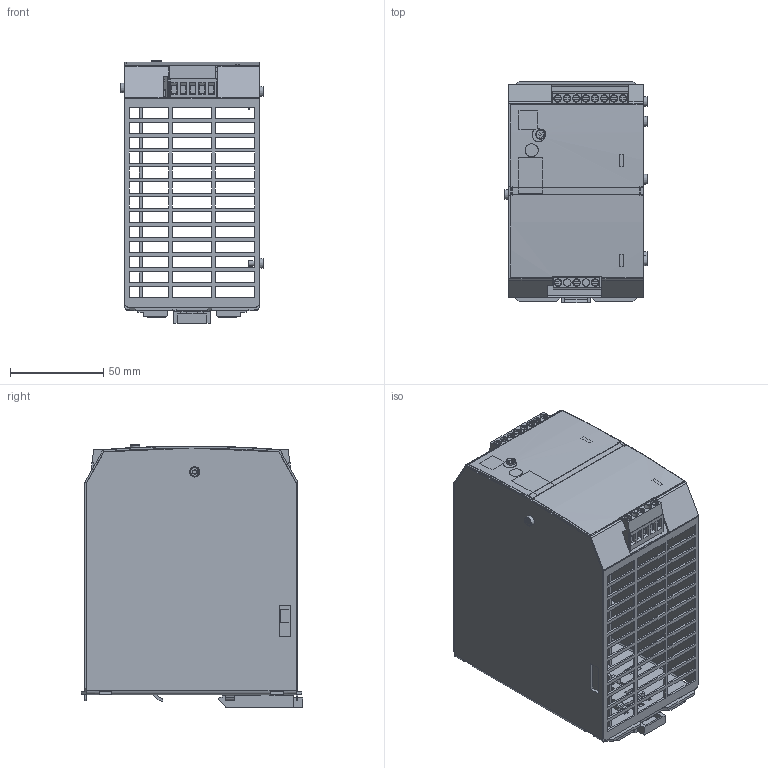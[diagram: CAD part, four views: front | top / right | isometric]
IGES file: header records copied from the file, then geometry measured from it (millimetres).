
Global section: file name: No Iges File Name specified; native system: Autodesk Inventor 2012; preprocessor: AutoDesk Inventor Iges Exporter R2012; author: Tecnico2; date: 20151201.091713; units: millimetre
Bounding box: 76.8 x 118.65 x 140.55 mm (x, y, z)
Volume: 115847 mm3; surface area: 177462.3 mm2
Topology: 40 solids, 40 shells, 2471 faces, 6453 edges, 4208 vertices
Faces by surface type: plane 1991, cylinder 223, revolution 199, torus 34, cone 18, sphere 4, bspline 2
Full cylindrical faces by diameter (mm): 1.4 x11, 1.52 x4, 2.675 x6, 2.8 x1, 3 x6, 3.85 x11, 4.7 x2, 5 x3, 6.7 x1, 9 x1
